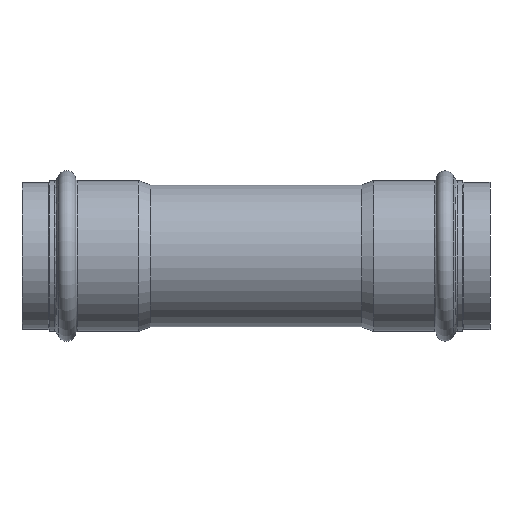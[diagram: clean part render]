
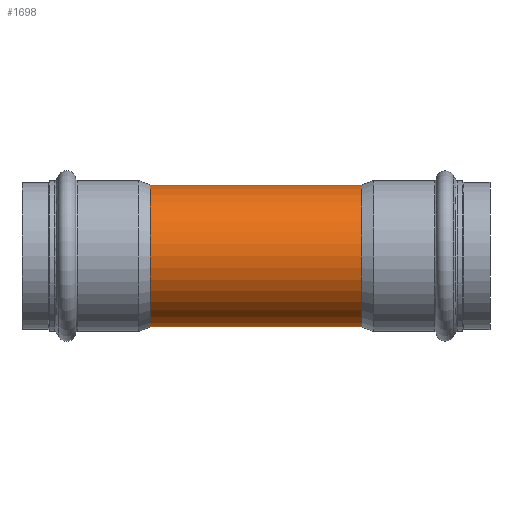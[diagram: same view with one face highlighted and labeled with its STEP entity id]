
A CAD part, front view. The second image highlights one B-rep face of the part: STEP entity #1698.
In plain terms, the highlighted cylindrical face has radius 27 mm (diameter 54 mm), a full revolution.
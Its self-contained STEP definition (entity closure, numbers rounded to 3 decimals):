
#1533=CARTESIAN_POINT('',(0.,24.526,-11.291));
#1534=VERTEX_POINT('',#1533);
#1595=CARTESIAN_POINT('',(0.,24.526,-11.291));
#1596=CARTESIAN_POINT('',(-0.867,24.526,-11.291));
#1597=CARTESIAN_POINT('',(-2.166,24.594,-11.146));
#1598=CARTESIAN_POINT('',(-3.831,24.803,-10.671));
#1599=CARTESIAN_POINT('',(-5.024,25.009,-10.183));
#1600=CARTESIAN_POINT('',(-6.143,25.25,-9.572));
#1601=CARTESIAN_POINT('',(-7.193,25.516,-8.84));
#1602=CARTESIAN_POINT('',(-8.151,25.794,-7.998));
#1603=CARTESIAN_POINT('',(-9.,26.066,-7.065));
#1604=CARTESIAN_POINT('',(-9.744,26.323,-6.04));
#1605=CARTESIAN_POINT('',(-10.58,26.631,-4.564));
#1606=CARTESIAN_POINT('',(-11.3,26.917,-2.562));
#1607=CARTESIAN_POINT('',(-11.6,27.041,-0.005));
#1608=CARTESIAN_POINT('',(-11.336,26.932,2.267));
#1609=CARTESIAN_POINT('',(-10.738,26.694,4.158));
#1610=CARTESIAN_POINT('',(-9.985,26.409,5.687));
#1611=CARTESIAN_POINT('',(-9.175,26.124,6.847));
#1612=CARTESIAN_POINT('',(-8.437,25.885,7.688));
#1613=CARTESIAN_POINT('',(-7.633,25.64,8.478));
#1614=CARTESIAN_POINT('',(-6.516,25.335,9.353));
#1615=CARTESIAN_POINT('',(-4.547,24.895,10.476));
#1616=CARTESIAN_POINT('',(-1.772,24.508,11.331));
#1617=CARTESIAN_POINT('',(1.157,24.506,11.334));
#1618=CARTESIAN_POINT('',(3.411,24.736,10.827));
#1619=CARTESIAN_POINT('',(4.759,24.958,10.306));
#1620=CARTESIAN_POINT('',(5.772,25.169,9.778));
#1621=CARTESIAN_POINT('',(6.731,25.394,9.184));
#1622=CARTESIAN_POINT('',(7.847,25.698,8.312));
#1623=CARTESIAN_POINT('',(9.013,26.067,7.078));
#1624=CARTESIAN_POINT('',(9.977,26.406,5.7));
#1625=CARTESIAN_POINT('',(10.735,26.692,4.167));
#1626=CARTESIAN_POINT('',(11.42,26.966,2.004));
#1627=CARTESIAN_POINT('',(11.599,27.041,-0.288));
#1628=CARTESIAN_POINT('',(11.25,26.897,-2.538));
#1629=CARTESIAN_POINT('',(10.738,26.694,-4.161));
#1630=CARTESIAN_POINT('',(9.979,26.407,-5.695));
#1631=CARTESIAN_POINT('',(9.094,26.096,-6.962));
#1632=CARTESIAN_POINT('',(8.147,25.792,-8.003));
#1633=CARTESIAN_POINT('',(6.867,25.423,-9.124));
#1634=CARTESIAN_POINT('',(5.426,25.078,-10.018));
#1635=CARTESIAN_POINT('',(3.827,24.803,-10.673));
#1636=CARTESIAN_POINT('',(2.168,24.594,-11.145));
#1637=CARTESIAN_POINT('',(0.867,24.526,-11.291));
#1638=CARTESIAN_POINT('',(0.,24.526,-11.291));
#1639=CARTESIAN_POINT('',(0.,24.526,-11.291));
#1640=CARTESIAN_POINT('',(0.,24.526,-11.291));
#1641=CARTESIAN_POINT('',(0.,24.526,-11.291));
#1642=B_SPLINE_CURVE_WITH_KNOTS('',3,(#1595,#1596,#1597,#1598,#1599,#1600,#1601,#1602,#1603,#1604,#1605,#1606,#1607,#1608,#1609,#1610,#1611,#1612,#1613,#1614,#1615,#1616,#1617,#1618,#1619,#1620,#1621,#1622,#1623,#1624,#1625,#1626,#1627,#1628,#1629,#1630,#1631,#1632,#1633,#1634,#1635,#1636,#1637,#1638,#1639,#1640,#1641),.UNSPECIFIED.,.T.,.U.,(4,1,1,1,1,1,1,1,1,1,1,1,1,1,1,1,1,1,1,1,1,1,1,1,1,1,1,1,1,1,1,1,1,1,1,1,1,1,1,1,1,3,4),(-6.715,-6.476,-6.356,-6.236,-6.116,-5.996,-5.876,-5.756,-5.636,-5.516,-5.276,-5.037,-4.797,-4.637,-4.477,-4.317,-4.237,-4.157,-3.997,-3.837,-3.518,-3.198,-3.038,-2.878,-2.798,-2.718,-2.558,-2.398,-2.238,-2.079,-1.919,-1.599,-1.439,-1.279,-1.119,-0.959,-0.839,-0.72,-0.48,-0.36,-0.24,0.0,0.),.UNSPECIFIED.);
#1643=EDGE_CURVE('',#1534,#1534,#1642,.T.);
#1668=CARTESIAN_POINT('',(0.,0.,0.0));
#1669=DIRECTION('',(1.0,0.,0.0));
#1670=DIRECTION('',(0.0,1.0,0.0));
#1671=AXIS2_PLACEMENT_3D('',#1668,#1669,#1670);
#1672=CYLINDRICAL_SURFACE('',#1671,27.);
#1673=CARTESIAN_POINT('',(-40.133,27.,0.0));
#1674=VERTEX_POINT('',#1673);
#1675=CARTESIAN_POINT('',(-40.133,0.,0.0));
#1676=DIRECTION('',(1.0,0.0,0.0));
#1677=DIRECTION('',(0.0,1.0,0.0));
#1678=AXIS2_PLACEMENT_3D('',#1675,#1676,#1677);
#1679=CIRCLE('',#1678,27.0);
#1680=EDGE_CURVE('',#1674,#1674,#1679,.T.);
#1681=ORIENTED_EDGE('',*,*,#1680,.T.);
#1682=EDGE_LOOP('',(#1681));
#1683=FACE_OUTER_BOUND('',#1682,.T.);
#1684=CARTESIAN_POINT('',(40.133,27.,0.0));
#1685=VERTEX_POINT('',#1684);
#1686=CARTESIAN_POINT('',(40.133,0.,0.0));
#1687=DIRECTION('',(1.0,0.0,0.0));
#1688=DIRECTION('',(0.0,1.0,0.0));
#1689=AXIS2_PLACEMENT_3D('',#1686,#1687,#1688);
#1690=CIRCLE('',#1689,27.);
#1691=EDGE_CURVE('',#1685,#1685,#1690,.T.);
#1692=ORIENTED_EDGE('',*,*,#1691,.F.);
#1693=EDGE_LOOP('',(#1692));
#1694=FACE_BOUND('',#1693,.T.);
#1695=ORIENTED_EDGE('',*,*,#1643,.F.);
#1696=EDGE_LOOP('',(#1695));
#1697=FACE_BOUND('',#1696,.T.);
#1698=ADVANCED_FACE('',(#1683,#1694,#1697),#1672,.T.);
